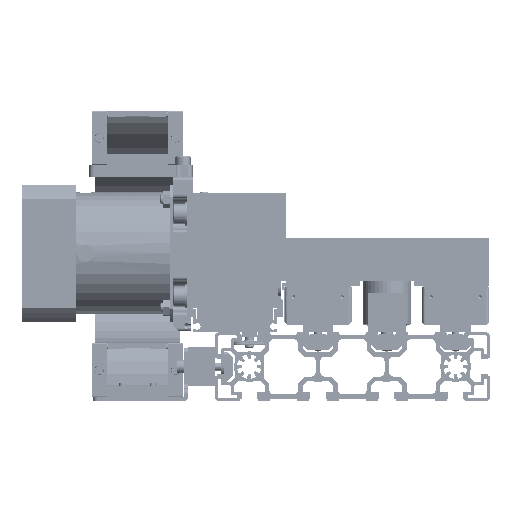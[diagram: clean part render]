
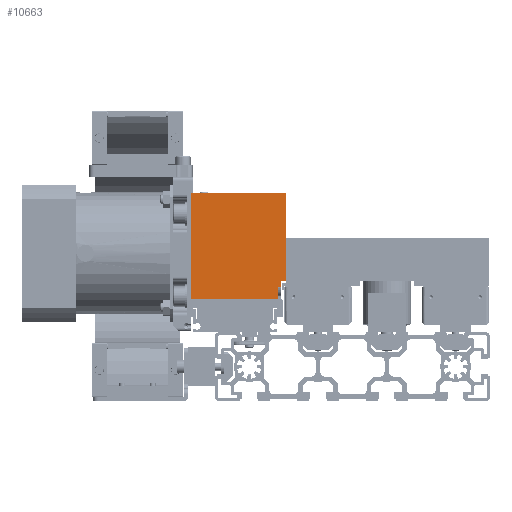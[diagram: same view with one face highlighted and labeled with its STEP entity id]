
A CAD part, front view. The second image highlights one B-rep face of the part: STEP entity #10663.
In plain terms, the highlighted planar face has unit normal (0, -1, 0) as drawn and (1, 0, 0) by its records, which use the part's own axes.
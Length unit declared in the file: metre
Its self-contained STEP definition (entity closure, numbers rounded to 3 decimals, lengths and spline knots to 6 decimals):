
#10663 = ADVANCED_FACE( '', ( #20258 ), #20259, .F. );
#20258 = FACE_OUTER_BOUND( '', #29866, .T. );
#20259 = PLANE( '', #29867 );
#29866 = EDGE_LOOP( '', ( #50428, #50429, #50430, #50431, #50432, #50433, #50434, #50435, #50436, #50437 ) );
#29867 = AXIS2_PLACEMENT_3D( '', #50438, #50439, #50440 );
#50428 = ORIENTED_EDGE( '', *, *, #56768, .F. );
#50429 = ORIENTED_EDGE( '', *, *, #54944, .T. );
#50430 = ORIENTED_EDGE( '', *, *, #61828, .F. );
#50431 = ORIENTED_EDGE( '', *, *, #61270, .T. );
#50432 = ORIENTED_EDGE( '', *, *, #54874, .T. );
#50433 = ORIENTED_EDGE( '', *, *, #61672, .F. );
#50434 = ORIENTED_EDGE( '', *, *, #61436, .F. );
#50435 = ORIENTED_EDGE( '', *, *, #55459, .T. );
#50436 = ORIENTED_EDGE( '', *, *, #54422, .F. );
#50437 = ORIENTED_EDGE( '', *, *, #58735, .F. );
#50438 = CARTESIAN_POINT( '', ( 0.125, -0.030683, 0.07519 ) );
#50439 = DIRECTION( '', ( -1., 0., 0. ) );
#50440 = DIRECTION( '', ( 0., 0., -1. ) );
#54422 = EDGE_CURVE( '', #64018, #64020, #64021, .T. );
#54874 = EDGE_CURVE( '', #64832, #64833, #64834, .T. );
#54944 = EDGE_CURVE( '', #64950, #64954, #64956, .T. );
#55459 = EDGE_CURVE( '', #65860, #64020, #65861, .T. );
#56768 = EDGE_CURVE( '', #64950, #68053, #68054, .T. );
#58735 = EDGE_CURVE( '', #68053, #64018, #71147, .T. );
#61270 = EDGE_CURVE( '', #74635, #64832, #74636, .T. );
#61436 = EDGE_CURVE( '', #65860, #74840, #74841, .T. );
#61672 = EDGE_CURVE( '', #74840, #64833, #75122, .T. );
#61828 = EDGE_CURVE( '', #74635, #64954, #75305, .T. );
#64018 = VERTEX_POINT( '', #77468 );
#64020 = VERTEX_POINT( '', #77471 );
#64021 = LINE( '', #77472, #77473 );
#64832 = VERTEX_POINT( '', #78562 );
#64833 = VERTEX_POINT( '', #78563 );
#64834 = LINE( '', #78564, #78565 );
#64950 = VERTEX_POINT( '', #78933 );
#64954 = VERTEX_POINT( '', #78938 );
#64956 = LINE( '', #78940, #78941 );
#65860 = VERTEX_POINT( '', #80283 );
#65861 = LINE( '', #80284, #80285 );
#68053 = VERTEX_POINT( '', #83887 );
#68054 = LINE( '', #83888, #83889 );
#71147 = LINE( '', #88450, #88451 );
#74635 = VERTEX_POINT( '', #93418 );
#74636 = LINE( '', #93419, #93420 );
#74840 = VERTEX_POINT( '', #93758 );
#74841 = LINE( '', #93759, #93760 );
#75122 = LINE( '', #94155, #94156 );
#75305 = LINE( '', #94396, #94397 );
#77468 = CARTESIAN_POINT( '', ( 0.125, 0.027381, 0.003683 ) );
#77471 = CARTESIAN_POINT( '', ( 0.125, 0.027381, 0.000889 ) );
#77472 = CARTESIAN_POINT( '', ( 0.125, 0.027381, 0.000635 ) );
#77473 = VECTOR( '', #96625, 1. );
#78562 = CARTESIAN_POINT( '', ( 0.125, 0.030683, 0.017526 ) );
#78563 = CARTESIAN_POINT( '', ( 0.125, 0.030683, 0.07519 ) );
#78564 = CARTESIAN_POINT( '', ( 0.125, 0.030683, 0.07519 ) );
#78565 = VECTOR( '', #97225, 1. );
#78933 = CARTESIAN_POINT( '', ( 0.125, 0.025349, 0.014033 ) );
#78938 = CARTESIAN_POINT( '', ( 0.125, 0.027381, 0.014033 ) );
#78940 = CARTESIAN_POINT( '', ( 0.125, -0.030683, 0.014033 ) );
#78941 = VECTOR( '', #97326, 1. );
#80283 = CARTESIAN_POINT( '', ( 0.125, -0.031953, 0.000889 ) );
#80284 = CARTESIAN_POINT( '', ( 0.125, -0.030683, 0.000889 ) );
#80285 = VECTOR( '', #97989, 1. );
#83887 = CARTESIAN_POINT( '', ( 0.125, 0.025349, 0.003683 ) );
#83888 = CARTESIAN_POINT( '', ( 0.125, 0.025349, 0.007683 ) );
#83889 = VECTOR( '', #99699, 1. );
#88450 = CARTESIAN_POINT( '', ( 0.125, 0.025349, 0.003683 ) );
#88451 = VECTOR( '', #102054, 1. );
#93418 = CARTESIAN_POINT( '', ( 0.125, 0.027381, 0.017526 ) );
#93419 = CARTESIAN_POINT( '', ( 0.125, 0.027381, 0.017526 ) );
#93420 = VECTOR( '', #105051, 1. );
#93758 = CARTESIAN_POINT( '', ( 0.125, -0.031953, 0.07519 ) );
#93759 = CARTESIAN_POINT( '', ( 0.125, -0.031953, 0.07519 ) );
#93760 = VECTOR( '', #105199, 1. );
#94155 = CARTESIAN_POINT( '', ( 0.125, -0.030683, 0.07519 ) );
#94156 = VECTOR( '', #105415, 1. );
#94396 = CARTESIAN_POINT( '', ( 0.125, 0.027381, 0.000635 ) );
#94397 = VECTOR( '', #105575, 1. );
#96625 = DIRECTION( '', ( 0., 0., -1. ) );
#97225 = DIRECTION( '', ( 0., 0., 1. ) );
#97326 = DIRECTION( '', ( 0., 1., 0. ) );
#97989 = DIRECTION( '', ( 0., 1., 0. ) );
#99699 = DIRECTION( '', ( 0., 0., -1. ) );
#102054 = DIRECTION( '', ( 0., 1., 0. ) );
#105051 = DIRECTION( '', ( 0., 1., 0. ) );
#105199 = DIRECTION( '', ( 0., 0., 1. ) );
#105415 = DIRECTION( '', ( 0., 1., 0. ) );
#105575 = DIRECTION( '', ( 0., 0., -1. ) );
